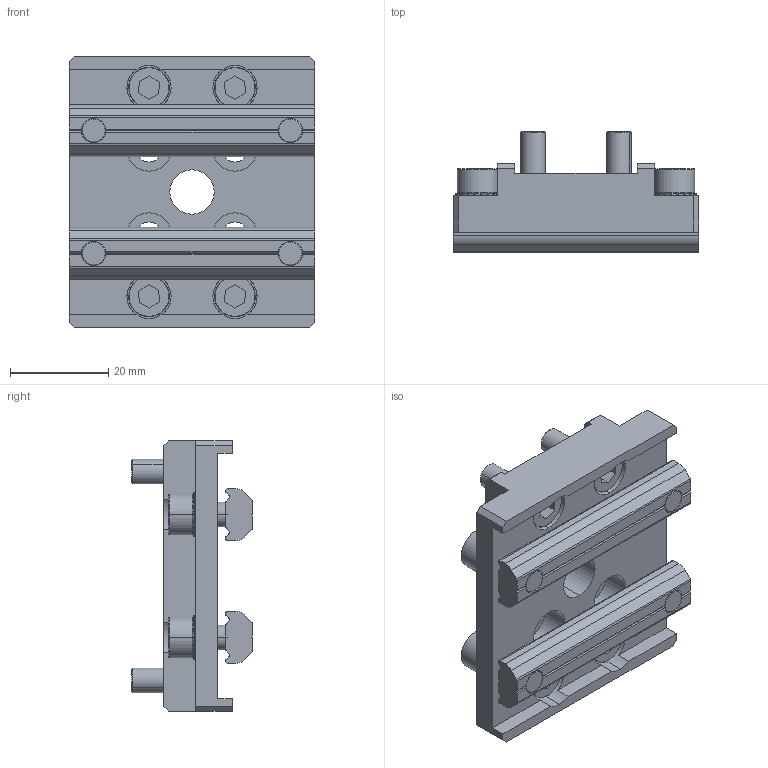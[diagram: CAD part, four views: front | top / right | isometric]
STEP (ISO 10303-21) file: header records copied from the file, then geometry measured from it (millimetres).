
FILE_DESCRIPTION (( 'STEP AP214' ), '1' );
FILE_NAME ('SMBD1-2550.STEP', '2019-10-31T06:59:21', ( '微软用户' ), ( '微软中国' ), 'SwSTEP 2.0', 'SolidWorks 2016', '' );
FILE_SCHEMA (( 'AUTOMOTIVE_DESIGN' ));
Length unit declared in the file: millimetre
Products named in the file (5): PTN-M5P40; PTS-M5; PTC-M5L12; SMBD1-2550
Assembly tree (15 placements, depth 2):
  SMBD1-2550
    SMBD1-2550
    PTC-M5L12  x8
    PTS-M5  x4
    PTN-M5P40  x2
Bounding box: 50 x 24.55 x 55 mm (x, y, z)
Volume: 25422.7 mm3; surface area: 17586.7 mm2
Topology: 15 solids, 15 shells, 1004 faces, 2862 edges, 1892 vertices
Faces by surface type: plane 818, cylinder 138, cone 48
Entity records: 11172 total; most frequent: CARTESIAN_POINT 2090, DIRECTION 1902, ORIENTED_EDGE 1872, EDGE_CURVE 936, AXIS2_PLACEMENT_3D 658, VERTEX_POINT 622, LINE 586, VECTOR 586
